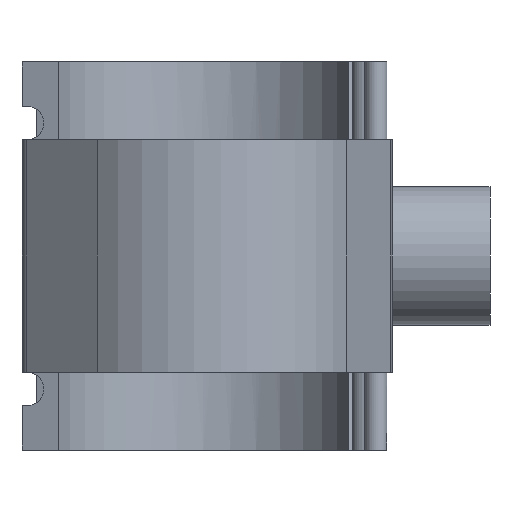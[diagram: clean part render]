
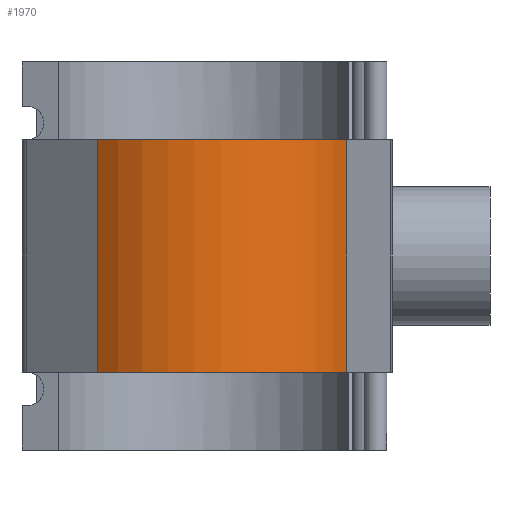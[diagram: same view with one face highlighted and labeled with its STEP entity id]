
A CAD part, front view. The second image highlights one B-rep face of the part: STEP entity #1970.
In plain terms, the highlighted cylindrical face has radius 72.1 mm (diameter 144.2 mm), a partial arc.
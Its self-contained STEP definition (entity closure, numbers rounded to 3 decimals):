
#222=FACE_OUTER_BOUND('',#349,.T.);
#349=EDGE_LOOP('',(#1804,#1805,#1806,#1807));
#449=CIRCLE('',#2183,72.1);
#452=CIRCLE('',#2187,72.1);
#614=LINE('',#3937,#772);
#618=LINE('',#3946,#776);
#772=VECTOR('',#2768,10.);
#776=VECTOR('',#2782,10.);
#957=VERTEX_POINT('',#3900);
#958=VERTEX_POINT('',#3902);
#961=VERTEX_POINT('',#3910);
#962=VERTEX_POINT('',#3912);
#1227=EDGE_CURVE('',#957,#958,#449,.T.);
#1232=EDGE_CURVE('',#961,#962,#452,.T.);
#1246=EDGE_CURVE('',#961,#958,#614,.T.);
#1250=EDGE_CURVE('',#957,#962,#618,.T.);
#1804=ORIENTED_EDGE('',*,*,#1250,.T.);
#1805=ORIENTED_EDGE('',*,*,#1232,.F.);
#1806=ORIENTED_EDGE('',*,*,#1246,.T.);
#1807=ORIENTED_EDGE('',*,*,#1227,.F.);
#1864=CYLINDRICAL_SURFACE('',#2202,72.1);
#1970=ADVANCED_FACE('',(#222),#1864,.T.);
#2183=AXIS2_PLACEMENT_3D('',#3903,#2730,#2731);
#2187=AXIS2_PLACEMENT_3D('',#3913,#2740,#2741);
#2202=AXIS2_PLACEMENT_3D('',#3947,#2783,#2784);
#2730=DIRECTION('center_axis',(0.,0.,-1.));
#2731=DIRECTION('ref_axis',(0.669,0.744,0.));
#2740=DIRECTION('center_axis',(0.,0.,1.));
#2741=DIRECTION('ref_axis',(0.669,0.744,0.));
#2768=DIRECTION('',(0.,0.,-1.));
#2782=DIRECTION('',(0.,0.,1.));
#2783=DIRECTION('center_axis',(0.,0.,1.));
#2784=DIRECTION('ref_axis',(0.669,0.744,0.));
#3900=CARTESIAN_POINT('',(64.973,-31.255,-52.8));
#3902=CARTESIAN_POINT('',(-48.208,-53.613,-52.8));
#3903=CARTESIAN_POINT('Origin',(0.,0.,
-52.8));
#3910=CARTESIAN_POINT('',(-48.208,-53.613,52.8));
#3912=CARTESIAN_POINT('',(64.973,-31.255,52.8));
#3913=CARTESIAN_POINT('Origin',(0.,0.,
52.8));
#3937=CARTESIAN_POINT('',(-48.208,-53.613,0.));
#3946=CARTESIAN_POINT('',(64.973,-31.255,0.));
#3947=CARTESIAN_POINT('Origin',(0.,0.,
0.));
